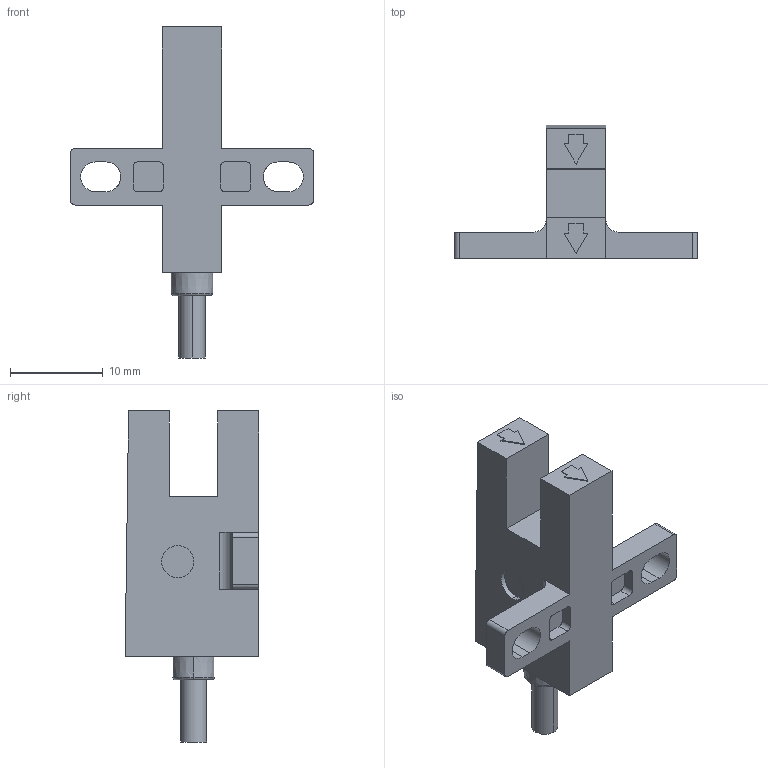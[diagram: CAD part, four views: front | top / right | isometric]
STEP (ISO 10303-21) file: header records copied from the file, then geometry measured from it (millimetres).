
FILE_DESCRIPTION((''),'2;1');
FILE_NAME('ASM672_ASM_ASM','2018-07-16T11:44:51',('Administrator'),(''),'CREO PARAMETRIC BY PTC INC, 2016390','CREO PARAMETRIC BY PTC INC, 2016390','');
FILE_SCHEMA(('CONFIG_CONTROL_DESIGN'));
Length unit declared in the file: inch
Products named in the file (8): FFU672_141; FFU672PCB_4; FSLIGHT_23; PRT0002_5; ASMPCB_ASM_23_ASM; 1-2-29_5; ASM672_ASM_90_ASM; ASM672_ASM_ASM
Assembly tree (7 placements, depth 4):
  ASM672_ASM_ASM
    ASM672_ASM_90_ASM
      FFU672_141
      ASMPCB_ASM_23_ASM
        FFU672PCB_4
        FSLIGHT_23
        PRT0002_5
      1-2-29_5
Bounding box: 26.18 x 14.4 x 35.73 mm (x, y, z)
Volume: 1491.1 mm3; surface area: 3302.6 mm2
Topology: 6 solids, 6 shells, 223 faces, 607 edges, 407 vertices
Faces by surface type: plane 177, cylinder 32, cone 8, sphere 4, torus 2
Entity records: 7269 total; most frequent: CARTESIAN_POINT 1351, ORIENTED_EDGE 1206, DIRECTION 1170, EDGE_CURVE 603, VECTOR 496, LINE 496, VERTEX_POINT 407, AXIS2_PLACEMENT_3D 337
